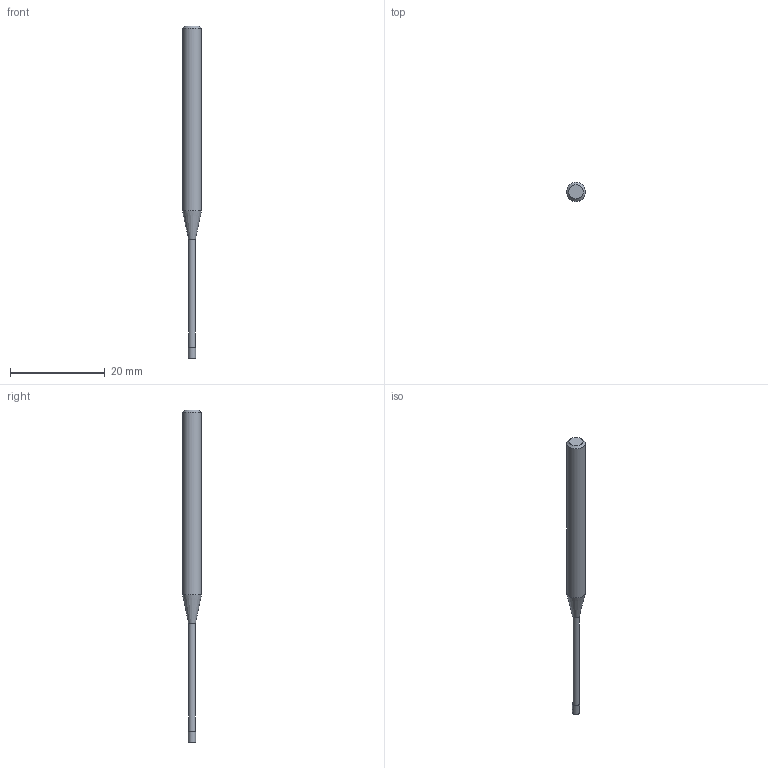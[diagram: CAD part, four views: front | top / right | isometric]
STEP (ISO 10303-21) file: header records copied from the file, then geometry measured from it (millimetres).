
FILE_DESCRIPTION((''),'2;1');
FILE_NAME('C:\Users\nsx150\AppData\Local\Temp\Mastercam 2021\17T8Q8S9EB\TEMP.step','2021-04-21T14:26:49',(''),(''),'STEP Write','Mastercam 2021 ... CNC Software, Inc.','');
FILE_SCHEMA(('AUTOMOTIVE_DESIGN'));
Length unit declared in the file: millimetre
Products named in the file (1): None
Bounding box: 4 x 4 x 70 mm (x, y, z)
Volume: 567.8 mm3; surface area: 670.6 mm2
Topology: 2 solids, 2 shells, 9 faces, 12 edges, 7 vertices
Faces by surface type: plane 4, cylinder 3, cone 2
Full cylindrical faces by diameter (mm): 1.45 x1, 1.5 x1, 4 x1
Entity records: 211 total; most frequent: DIRECTION 36, CARTESIAN_POINT 25, AXIS2_PLACEMENT_3D 18, ORIENTED_EDGE 14, EDGE_LOOP 14, STYLED_ITEM 12, ADVANCED_FACE 9, FACE_BOUND 8
